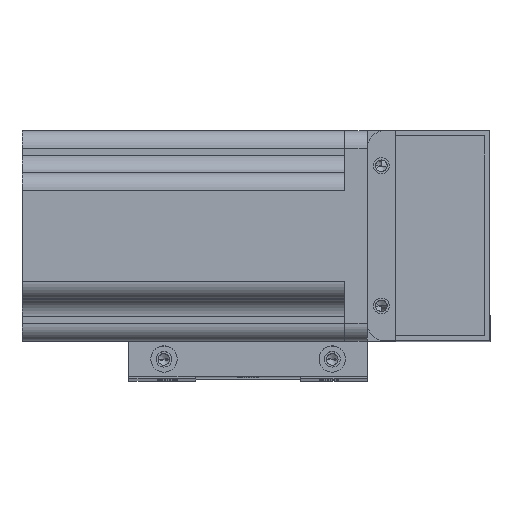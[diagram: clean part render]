
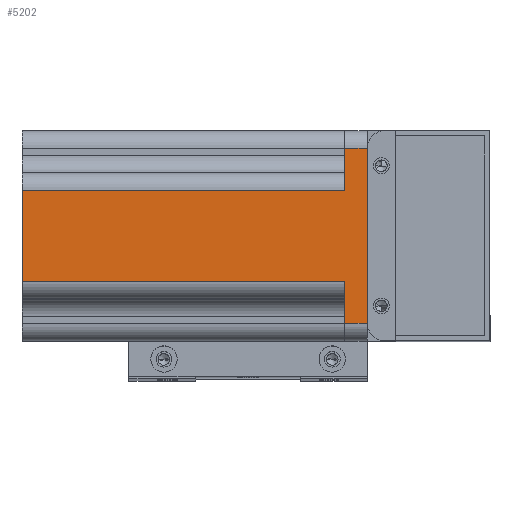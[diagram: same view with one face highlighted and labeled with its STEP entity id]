
A CAD part, top view. The second image highlights one B-rep face of the part: STEP entity #5202.
In plain terms, the highlighted planar face has unit normal (0, 0, 1) as drawn and (0, 1, 0) by its records, which use the part's own axes.
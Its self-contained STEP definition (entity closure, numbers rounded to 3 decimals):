
#104 = EDGE_CURVE ( 'NONE', #542, #1199, #13214, .T. ) ;
#542 = VERTEX_POINT ( 'NONE', #4759 ) ;
#1199 = VERTEX_POINT ( 'NONE', #23922 ) ;
#1284 = LINE ( 'NONE', #18289, #10657 ) ;
#1342 = EDGE_LOOP ( 'NONE', ( #3252, #12802, #20624, #8642, #25351, #18084, #16509, #8515 ) ) ;
#1369 = CARTESIAN_POINT ( 'NONE',  ( -13., 30., -92. ) ) ;
#2040 = DIRECTION ( 'NONE',  ( 0., 0., -1. ) ) ;
#2968 = VECTOR ( 'NONE', #21201, 1000. ) ;
#3167 = VECTOR ( 'NONE', #8520, 1000. ) ;
#3252 = ORIENTED_EDGE ( 'NONE', *, *, #14578, .T. ) ;
#3450 = LINE ( 'NONE', #22926, #6686 ) ;
#4759 = CARTESIAN_POINT ( 'NONE',  ( 25., 30., 6.5 ) ) ;
#4981 = CARTESIAN_POINT ( 'NONE',  ( 13., 30., 6.5 ) ) ;
#5202 = ADVANCED_FACE ( 'NONE', ( #22122 ), #5257, .F. ) ;
#5257 = PLANE ( 'NONE',  #22948 ) ;
#6686 = VECTOR ( 'NONE', #10600, 1000. ) ;
#7068 = LINE ( 'NONE', #16327, #22845 ) ;
#7739 = EDGE_CURVE ( 'NONE', #15315, #11166, #13297, .T. ) ;
#7826 = CARTESIAN_POINT ( 'NONE',  ( 25., 30., 0. ) ) ;
#8385 = LINE ( 'NONE', #4981, #13503 ) ;
#8515 = ORIENTED_EDGE ( 'NONE', *, *, #14494, .T. ) ;
#8520 = DIRECTION ( 'NONE',  ( 1., 0., 0. ) ) ;
#8642 = ORIENTED_EDGE ( 'NONE', *, *, #7739, .T. ) ;
#8725 = CARTESIAN_POINT ( 'NONE',  ( -13., 30., 0. ) ) ;
#9296 = VECTOR ( 'NONE', #2040, 1000. ) ;
#9893 = EDGE_CURVE ( 'NONE', #16701, #25733, #8385, .T. ) ;
#10600 = DIRECTION ( 'NONE',  ( -1., 0., 0. ) ) ;
#10657 = VECTOR ( 'NONE', #14073, 1000. ) ;
#11166 = VERTEX_POINT ( 'NONE', #8725 ) ;
#11671 = DIRECTION ( 'NONE',  ( 0., -1., 0. ) ) ;
#12584 = VECTOR ( 'NONE', #20100, 1000. ) ;
#12802 = ORIENTED_EDGE ( 'NONE', *, *, #9893, .T. ) ;
#12831 = LINE ( 'NONE', #14383, #9296 ) ;
#13214 = LINE ( 'NONE', #13613, #12584 ) ;
#13260 = EDGE_CURVE ( 'NONE', #11166, #19680, #1284, .T. ) ;
#13297 = LINE ( 'NONE', #23018, #2968 ) ;
#13375 = EDGE_CURVE ( 'NONE', #15315, #25733, #21558, .T. ) ;
#13446 = CARTESIAN_POINT ( 'NONE',  ( -25., 30., 6.5 ) ) ;
#13503 = VECTOR ( 'NONE', #23098, 1000. ) ;
#13613 = CARTESIAN_POINT ( 'NONE',  ( -25., 30., 6.5 ) ) ;
#14073 = DIRECTION ( 'NONE',  ( -1., 0., 0. ) ) ;
#14383 = CARTESIAN_POINT ( 'NONE',  ( 25., 30., 6.5 ) ) ;
#14494 = EDGE_CURVE ( 'NONE', #542, #20206, #12831, .T. ) ;
#14578 = EDGE_CURVE ( 'NONE', #20206, #16701, #3450, .T. ) ;
#15315 = VERTEX_POINT ( 'NONE', #1369 ) ;
#15782 = DIRECTION ( 'NONE',  ( 0., 0., -1. ) ) ;
#16072 = DIRECTION ( 'NONE',  ( 0., 0., -1. ) ) ;
#16327 = CARTESIAN_POINT ( 'NONE',  ( -25., 30., 6.5 ) ) ;
#16509 = ORIENTED_EDGE ( 'NONE', *, *, #104, .F. ) ;
#16701 = VERTEX_POINT ( 'NONE', #24668 ) ;
#18084 = ORIENTED_EDGE ( 'NONE', *, *, #18575, .F. ) ;
#18289 = CARTESIAN_POINT ( 'NONE',  ( -25., 30., 0. ) ) ;
#18575 = EDGE_CURVE ( 'NONE', #1199, #19680, #7068, .T. ) ;
#19680 = VERTEX_POINT ( 'NONE', #20228 ) ;
#20100 = DIRECTION ( 'NONE',  ( -1., 0., 0. ) ) ;
#20206 = VERTEX_POINT ( 'NONE', #7826 ) ;
#20228 = CARTESIAN_POINT ( 'NONE',  ( -25., 30., 0. ) ) ;
#20624 = ORIENTED_EDGE ( 'NONE', *, *, #13375, .F. ) ;
#21201 = DIRECTION ( 'NONE',  ( 0., 0., 1. ) ) ;
#21558 = LINE ( 'NONE', #22968, #3167 ) ;
#22122 = FACE_OUTER_BOUND ( 'NONE', #1342, .T. ) ;
#22845 = VECTOR ( 'NONE', #16072, 1000. ) ;
#22926 = CARTESIAN_POINT ( 'NONE',  ( -25., 30., 0. ) ) ;
#22948 = AXIS2_PLACEMENT_3D ( 'NONE', #13446, #11671, #15782 ) ;
#22968 = CARTESIAN_POINT ( 'NONE',  ( -18., 30., -92. ) ) ;
#23018 = CARTESIAN_POINT ( 'NONE',  ( -13., 30., 6.5 ) ) ;
#23098 = DIRECTION ( 'NONE',  ( 0., 0., -1. ) ) ;
#23922 = CARTESIAN_POINT ( 'NONE',  ( -25., 30., 6.5 ) ) ;
#24668 = CARTESIAN_POINT ( 'NONE',  ( 13., 30., 0. ) ) ;
#25351 = ORIENTED_EDGE ( 'NONE', *, *, #13260, .T. ) ;
#25733 = VERTEX_POINT ( 'NONE', #26227 ) ;
#26227 = CARTESIAN_POINT ( 'NONE',  ( 13., 30., -92. ) ) ;
